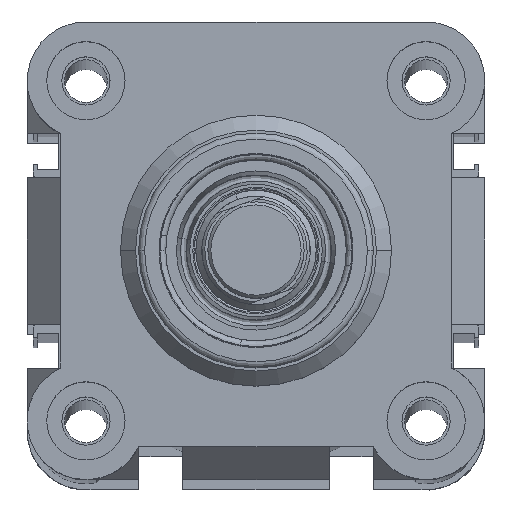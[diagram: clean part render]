
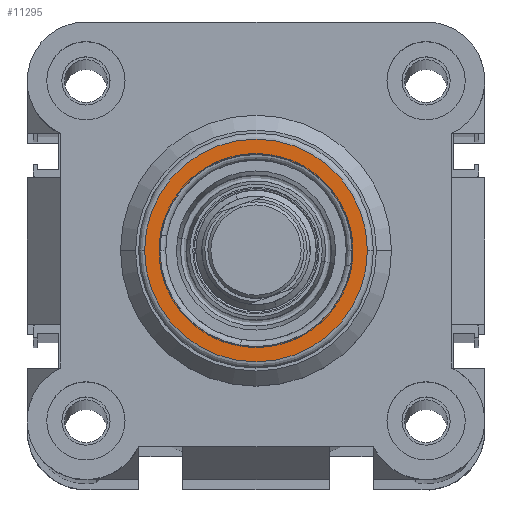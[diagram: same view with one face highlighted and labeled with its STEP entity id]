
A CAD part, top view. The second image highlights one B-rep face of the part: STEP entity #11295.
In plain terms, the highlighted planar face has unit normal (0, 0, 1).
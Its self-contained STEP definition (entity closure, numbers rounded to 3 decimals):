
#832 = DIRECTION ( 'NONE',  ( 0., 0., -1. ) ) ;
#883 = EDGE_CURVE ( 'NONE', #19498, #19482, #4201, .T. ) ;
#1610 = EDGE_LOOP ( 'NONE', ( #16700, #1967 ) ) ;
#1967 = ORIENTED_EDGE ( 'NONE', *, *, #16681, .T. ) ;
#3226 = CARTESIAN_POINT ( 'NONE',  ( 38., 38., 62. ) ) ;
#3571 = DIRECTION ( 'NONE',  ( 0., 0., -1. ) ) ;
#3856 = CARTESIAN_POINT ( 'NONE',  ( 38., 38., 62. ) ) ;
#4010 = DIRECTION ( 'NONE',  ( 0., 0., 1. ) ) ;
#4201 = CIRCLE ( 'NONE', #17765, 18.5 ) ;
#4236 = FACE_BOUND ( 'NONE', #1610, .T. ) ;
#4295 = CARTESIAN_POINT ( 'NONE',  ( 38., 38., 62. ) ) ;
#5853 = FACE_OUTER_BOUND ( 'NONE', #19757, .T. ) ;
#5926 = CARTESIAN_POINT ( 'NONE',  ( 38., 38., 62. ) ) ;
#6154 = CIRCLE ( 'NONE', #13435, 16. ) ;
#8852 = CARTESIAN_POINT ( 'NONE',  ( 22., 38., 62. ) ) ;
#8897 = ORIENTED_EDGE ( 'NONE', *, *, #15277, .T. ) ;
#10437 = PLANE ( 'NONE',  #21254 ) ;
#11295 = ADVANCED_FACE ( 'NONE', ( #4236, #5853 ), #10437, .T. ) ;
#11701 = AXIS2_PLACEMENT_3D ( 'NONE', #3226, #20026, #11759 ) ;
#11759 = DIRECTION ( 'NONE',  ( 1., 0., 0. ) ) ;
#11913 = VERTEX_POINT ( 'NONE', #8852 ) ;
#11994 = CARTESIAN_POINT ( 'NONE',  ( 38., 38., 62. ) ) ;
#13018 = CARTESIAN_POINT ( 'NONE',  ( 54., 38., 62. ) ) ;
#13435 = AXIS2_PLACEMENT_3D ( 'NONE', #4295, #832, #14197 ) ;
#13584 = DIRECTION ( 'NONE',  ( 1., 0., 0. ) ) ;
#13711 = VERTEX_POINT ( 'NONE', #13018 ) ;
#14197 = DIRECTION ( 'NONE',  ( 1., 0., 0. ) ) ;
#15277 = EDGE_CURVE ( 'NONE', #19482, #19498, #19991, .T. ) ;
#15600 = CARTESIAN_POINT ( 'NONE',  ( 56.5, 38., 62. ) ) ;
#15754 = DIRECTION ( 'NONE',  ( 1., 0., 0. ) ) ;
#15759 = DIRECTION ( 'NONE',  ( 1., 0., 0. ) ) ;
#15946 = ORIENTED_EDGE ( 'NONE', *, *, #883, .T. ) ;
#16681 = EDGE_CURVE ( 'NONE', #11913, #13711, #18580, .T. ) ;
#16700 = ORIENTED_EDGE ( 'NONE', *, *, #21187, .T. ) ;
#16767 = AXIS2_PLACEMENT_3D ( 'NONE', #3856, #3571, #13584 ) ;
#17765 = AXIS2_PLACEMENT_3D ( 'NONE', #11994, #4010, #15759 ) ;
#18580 = CIRCLE ( 'NONE', #16767, 16. ) ;
#19137 = DIRECTION ( 'NONE',  ( 0., 0., 1. ) ) ;
#19482 = VERTEX_POINT ( 'NONE', #19880 ) ;
#19498 = VERTEX_POINT ( 'NONE', #15600 ) ;
#19757 = EDGE_LOOP ( 'NONE', ( #15946, #8897 ) ) ;
#19880 = CARTESIAN_POINT ( 'NONE',  ( 19.5, 38., 62. ) ) ;
#19991 = CIRCLE ( 'NONE', #11701, 18.5 ) ;
#20026 = DIRECTION ( 'NONE',  ( 0., 0., 1. ) ) ;
#21187 = EDGE_CURVE ( 'NONE', #13711, #11913, #6154, .T. ) ;
#21254 = AXIS2_PLACEMENT_3D ( 'NONE', #5926, #19137, #15754 ) ;
